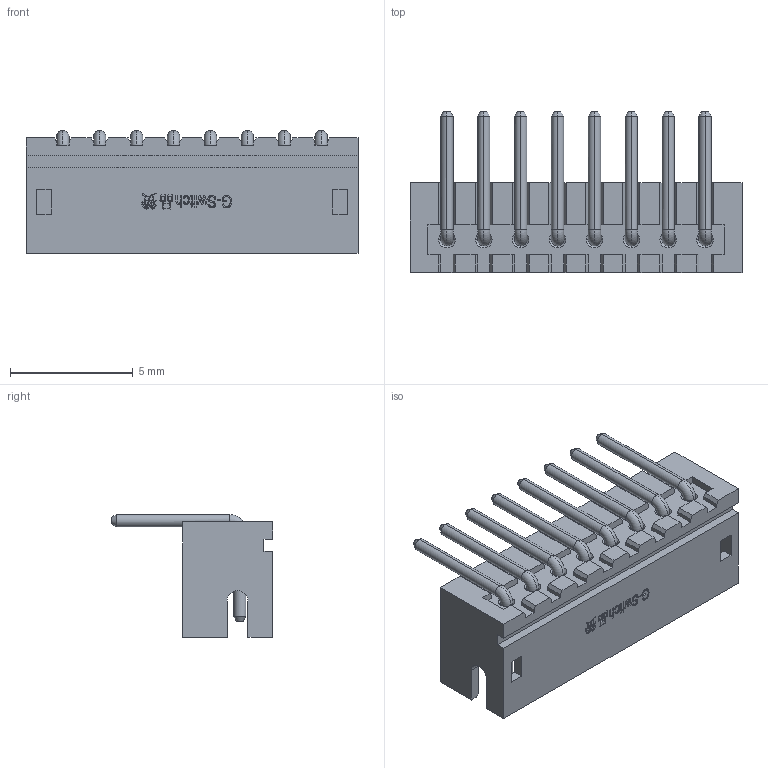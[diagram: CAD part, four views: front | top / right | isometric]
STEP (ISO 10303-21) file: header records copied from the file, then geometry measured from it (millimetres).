
FILE_DESCRIPTION (( 'STEP AP203' ), '1' );
FILE_NAME ('GT-A1501WRD-108WBT01.STEP', '2025-12-27T08:54:35', ( '' ), ( '' ), 'SwSTEP 2.0', 'SolidWorks 2020', '' );
FILE_SCHEMA (( 'CONFIG_CONTROL_DESIGN' ));
Length unit declared in the file: millimetre
Products named in the file (1): GT-A1501WRD-108WBT01
Bounding box: 13.5 x 6.55 x 5 mm (x, y, z)
Volume: 110.8 mm3; surface area: 480.3 mm2
Topology: 1 solids, 1 shells, 532 faces, 1410 edges, 914 vertices
Faces by surface type: plane 341, bspline 103, cylinder 50, cone 22, torus 16
Entity records: 24607 total; most frequent: CARTESIAN_POINT 12112, ORIENTED_EDGE 2820, DIRECTION 2086, EDGE_CURVE 1410, VECTOR 1054, LINE 1054, VERTEX_POINT 914, EDGE_LOOP 570
